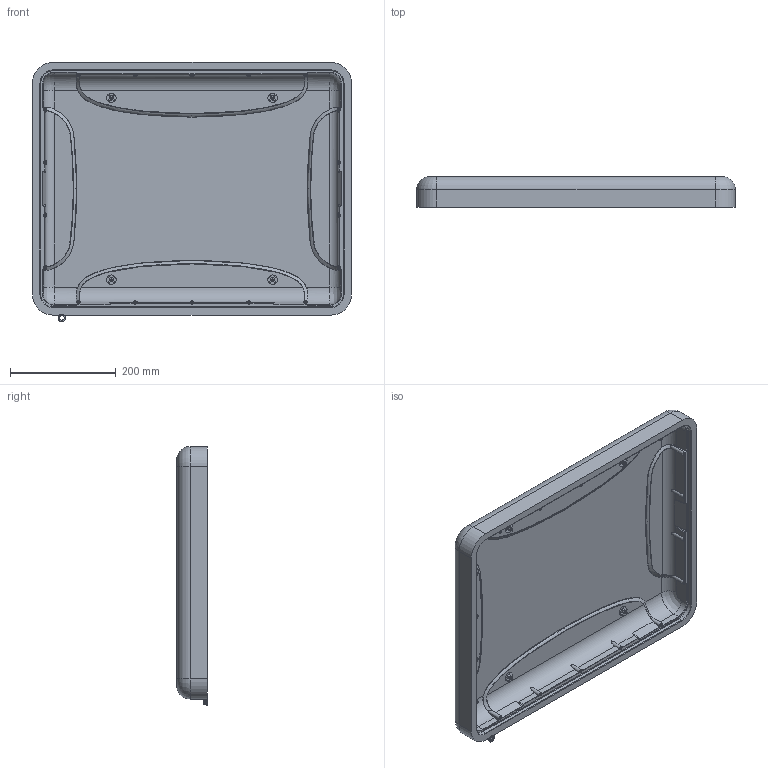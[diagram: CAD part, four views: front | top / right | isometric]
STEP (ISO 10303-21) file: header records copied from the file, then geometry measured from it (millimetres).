
FILE_DESCRIPTION (( 'STEP AP203' ), '1' );
FILE_NAME ('960_top_INNER SURFACES.STEP', '2020-07-03T13:26:00', ( '' ), ( '' ), 'SwSTEP 2.0', 'SolidWorks 2019', '' );
FILE_SCHEMA (( 'CONFIG_CONTROL_DESIGN' ));
Products named in the file (1): 960_top_INNER SURFACES
Bounding box: 602.99 x 57.84 x 489.8 mm (x, y, z)
Volume: 3955827.2 mm3; surface area: 760724.9 mm2
Topology: 2 solids, 7 shells, 869 faces, 2226 edges, 1442 vertices
Faces by surface type: plane 396, bspline 280, cylinder 120, cone 43, torus 30
Full cylindrical faces by diameter (mm): 2.944 x4, 8.89 x1, 10.414 x1, 11.43 x1, 13.97 x1
Entity records: 89974 total; most frequent: CARTESIAN_POINT 71317, ORIENTED_EDGE 4344, DIRECTION 2893, EDGE_CURVE 2172, VERTEX_POINT 1439, LINE 1143, VECTOR 1143, EDGE_LOOP 993
